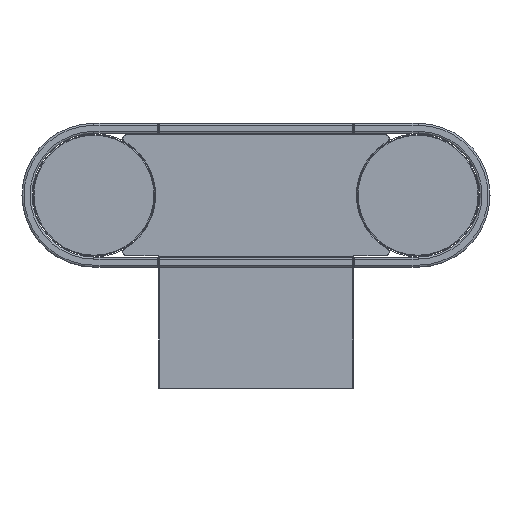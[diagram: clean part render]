
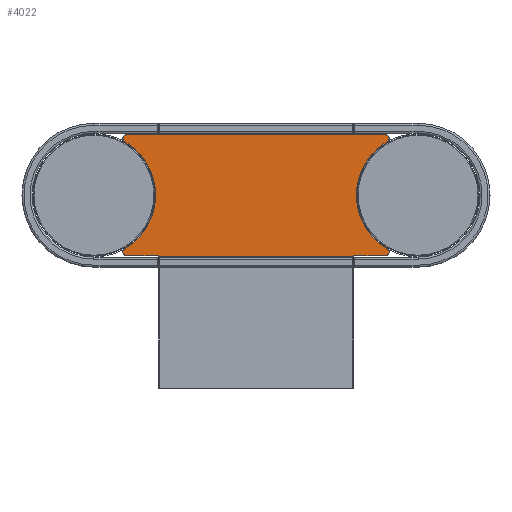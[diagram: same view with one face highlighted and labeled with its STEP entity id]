
A CAD part, left-side view. The second image highlights one B-rep face of the part: STEP entity #4022.
In plain terms, the highlighted planar face has unit normal (-1, 0, 0).
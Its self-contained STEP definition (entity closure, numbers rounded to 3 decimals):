
#5 = VERTEX_POINT ( 'NONE', #5370 ) ;
#294 = AXIS2_PLACEMENT_3D ( 'NONE', #3608, #2843, #5962 ) ;
#334 = EDGE_CURVE ( 'NONE', #5, #7294, #8354, .T. ) ;
#517 = CARTESIAN_POINT ( 'NONE',  ( -58.5, -16.1, -15.15 ) ) ;
#559 = CARTESIAN_POINT ( 'NONE',  ( -58.5, -7.603, -13.22 ) ) ;
#723 = CIRCLE ( 'NONE', #4633, 0.2 ) ;
#976 = VERTEX_POINT ( 'NONE', #5745 ) ;
#1088 = CIRCLE ( 'NONE', #9266, 15.25 ) ;
#1233 = ORIENTED_EDGE ( 'NONE', *, *, #5412, .T. ) ;
#1301 = ORIENTED_EDGE ( 'NONE', *, *, #6736, .T. ) ;
#1316 = CARTESIAN_POINT ( 'NONE',  ( -58.5, -63.9, -15.1 ) ) ;
#1670 = VERTEX_POINT ( 'NONE', #3109 ) ;
#1756 = CARTESIAN_POINT ( 'NONE',  ( -58.5, -63.9, -15.15 ) ) ;
#1856 = VERTEX_POINT ( 'NONE', #559 ) ;
#1920 = CARTESIAN_POINT ( 'NONE',  ( -58.5, -80., 0. ) ) ;
#2012 = FACE_OUTER_BOUND ( 'NONE', #8142, .T. ) ;
#2231 = CARTESIAN_POINT ( 'NONE',  ( -58.5, -80., 14.9 ) ) ;
#2257 = CARTESIAN_POINT ( 'NONE',  ( -58.5, -64.1, -14.9 ) ) ;
#2261 = ORIENTED_EDGE ( 'NONE', *, *, #3427, .T. ) ;
#2337 = LINE ( 'NONE', #10096, #8100 ) ;
#2361 = DIRECTION ( 'NONE',  ( -1., 0., 0. ) ) ;
#2439 = CARTESIAN_POINT ( 'NONE',  ( -58.5, -71.949, 14. ) ) ;
#2632 = CARTESIAN_POINT ( 'NONE',  ( -58.5, -16.1, -15.1 ) ) ;
#2780 = CARTESIAN_POINT ( 'NONE',  ( -58.5, -71.949, -14.9 ) ) ;
#2843 = DIRECTION ( 'NONE',  ( -1., 0., 0. ) ) ;
#2859 = CARTESIAN_POINT ( 'NONE',  ( -58.5, -72.397, 13.22 ) ) ;
#3016 = VERTEX_POINT ( 'NONE', #5365 ) ;
#3078 = CARTESIAN_POINT ( 'NONE',  ( -58.5, -71.949, 14.9 ) ) ;
#3109 = CARTESIAN_POINT ( 'NONE',  ( -58.5, -72.397, -13.22 ) ) ;
#3280 = EDGE_CURVE ( 'NONE', #6020, #9106, #5166, .T. ) ;
#3289 = CARTESIAN_POINT ( 'NONE',  ( -58.5, -71.949, -14. ) ) ;
#3427 = EDGE_CURVE ( 'NONE', #6211, #976, #10038, .T. ) ;
#3564 = ORIENTED_EDGE ( 'NONE', *, *, #334, .T. ) ;
#3586 = DIRECTION ( 'NONE',  ( 0., -1., 0. ) ) ;
#3608 = CARTESIAN_POINT ( 'NONE',  ( -58.5, -80., 0. ) ) ;
#3625 = ORIENTED_EDGE ( 'NONE', *, *, #8935, .T. ) ;
#3657 = DIRECTION ( 'NONE',  ( -1., 0., 0. ) ) ;
#3662 = VERTEX_POINT ( 'NONE', #2859 ) ;
#3671 = EDGE_CURVE ( 'NONE', #1670, #3662, #1088, .T. ) ;
#3818 = CIRCLE ( 'NONE', #4480, 0.9 ) ;
#3888 = CARTESIAN_POINT ( 'NONE',  ( -58.5, -71.949, -14.9 ) ) ;
#3910 = DIRECTION ( 'NONE',  ( -1., 0., 0. ) ) ;
#4022 = ADVANCED_FACE ( 'NONE', ( #2012 ), #8278, .T. ) ;
#4127 = AXIS2_PLACEMENT_3D ( 'NONE', #8662, #7236, #9535 ) ;
#4144 = LINE ( 'NONE', #9584, #8520 ) ;
#4436 = DIRECTION ( 'NONE',  ( -1., 0., 0. ) ) ;
#4480 = AXIS2_PLACEMENT_3D ( 'NONE', #9573, #3910, #10124 ) ;
#4483 = DIRECTION ( 'NONE',  ( 0., 0., 1. ) ) ;
#4535 = DIRECTION ( 'NONE',  ( 0., 0., 1. ) ) ;
#4591 = DIRECTION ( 'NONE',  ( -1., 0., 0. ) ) ;
#4633 = AXIS2_PLACEMENT_3D ( 'NONE', #9823, #3657, #6012 ) ;
#4708 = DIRECTION ( 'NONE',  ( 0., -1., 0. ) ) ;
#4718 = ORIENTED_EDGE ( 'NONE', *, *, #5779, .T. ) ;
#4948 = CIRCLE ( 'NONE', #4127, 15.25 ) ;
#4963 = EDGE_CURVE ( 'NONE', #6065, #8159, #723, .T. ) ;
#4966 = DIRECTION ( 'NONE',  ( 0., -1., 0. ) ) ;
#5166 = LINE ( 'NONE', #6817, #9259 ) ;
#5251 = DIRECTION ( 'NONE',  ( 1., 0., 0. ) ) ;
#5275 = AXIS2_PLACEMENT_3D ( 'NONE', #8638, #4591, #7777 ) ;
#5314 = VERTEX_POINT ( 'NONE', #2780 ) ;
#5365 = CARTESIAN_POINT ( 'NONE',  ( -58.5, -7.603, 13.22 ) ) ;
#5370 = CARTESIAN_POINT ( 'NONE',  ( -58.5, -8.051, -14.9 ) ) ;
#5412 = EDGE_CURVE ( 'NONE', #3662, #6211, #7428, .T. ) ;
#5416 = ORIENTED_EDGE ( 'NONE', *, *, #9738, .T. ) ;
#5559 = DIRECTION ( 'NONE',  ( -1., 0., 0. ) ) ;
#5618 = DIRECTION ( 'NONE',  ( 0., 0., 1. ) ) ;
#5745 = CARTESIAN_POINT ( 'NONE',  ( -58.5, -8.051, 14.9 ) ) ;
#5779 = EDGE_CURVE ( 'NONE', #1856, #5, #3818, .T. ) ;
#5815 = ORIENTED_EDGE ( 'NONE', *, *, #4963, .F. ) ;
#5962 = DIRECTION ( 'NONE',  ( 0., 0., -1. ) ) ;
#6012 = DIRECTION ( 'NONE',  ( 0., 0., 1. ) ) ;
#6020 = VERTEX_POINT ( 'NONE', #2632 ) ;
#6065 = VERTEX_POINT ( 'NONE', #2257 ) ;
#6211 = VERTEX_POINT ( 'NONE', #3078 ) ;
#6240 = DIRECTION ( 'NONE',  ( 0., 0., 1. ) ) ;
#6423 = CIRCLE ( 'NONE', #5275, 0.9 ) ;
#6426 = CIRCLE ( 'NONE', #9196, 0.9 ) ;
#6443 = ORIENTED_EDGE ( 'NONE', *, *, #3280, .T. ) ;
#6532 = VECTOR ( 'NONE', #3586, 1000. ) ;
#6736 = EDGE_CURVE ( 'NONE', #9106, #8670, #4144, .T. ) ;
#6817 = CARTESIAN_POINT ( 'NONE',  ( -58.5, -16.1, -15.25 ) ) ;
#6820 = VECTOR ( 'NONE', #10134, 1000. ) ;
#7236 = DIRECTION ( 'NONE',  ( 1., 0., 0. ) ) ;
#7264 = VECTOR ( 'NONE', #4708, 1000. ) ;
#7294 = VERTEX_POINT ( 'NONE', #8474 ) ;
#7414 = ORIENTED_EDGE ( 'NONE', *, *, #8187, .T. ) ;
#7428 = CIRCLE ( 'NONE', #9377, 0.9 ) ;
#7591 = CARTESIAN_POINT ( 'NONE',  ( -58.5, -16., -14.9 ) ) ;
#7777 = DIRECTION ( 'NONE',  ( 0., 0., 1. ) ) ;
#7795 = LINE ( 'NONE', #3888, #7264 ) ;
#7857 = DIRECTION ( 'NONE',  ( 0., 0., 1. ) ) ;
#7889 = ORIENTED_EDGE ( 'NONE', *, *, #8533, .F. ) ;
#8076 = CIRCLE ( 'NONE', #10033, 0.2 ) ;
#8100 = VECTOR ( 'NONE', #6240, 1000. ) ;
#8142 = EDGE_LOOP ( 'NONE', ( #1301, #9074, #5815, #3625, #5416, #8758, #1233, #2261, #7414, #9623, #4718, #3564, #7889, #6443 ) ) ;
#8159 = VERTEX_POINT ( 'NONE', #1316 ) ;
#8187 = EDGE_CURVE ( 'NONE', #976, #3016, #6423, .T. ) ;
#8278 = PLANE ( 'NONE',  #294 ) ;
#8354 = LINE ( 'NONE', #7591, #6532 ) ;
#8440 = CARTESIAN_POINT ( 'NONE',  ( -58.5, -15.9, -15.1 ) ) ;
#8474 = CARTESIAN_POINT ( 'NONE',  ( -58.5, -15.9, -14.9 ) ) ;
#8520 = VECTOR ( 'NONE', #4966, 1000. ) ;
#8533 = EDGE_CURVE ( 'NONE', #6020, #7294, #8076, .T. ) ;
#8638 = CARTESIAN_POINT ( 'NONE',  ( -58.5, -8.051, 14. ) ) ;
#8662 = CARTESIAN_POINT ( 'NONE',  ( -58.5, 0., 0. ) ) ;
#8670 = VERTEX_POINT ( 'NONE', #1756 ) ;
#8758 = ORIENTED_EDGE ( 'NONE', *, *, #3671, .T. ) ;
#8935 = EDGE_CURVE ( 'NONE', #6065, #5314, #7795, .T. ) ;
#9008 = DIRECTION ( 'NONE',  ( 0., 0., -1. ) ) ;
#9074 = ORIENTED_EDGE ( 'NONE', *, *, #9287, .T. ) ;
#9106 = VERTEX_POINT ( 'NONE', #517 ) ;
#9196 = AXIS2_PLACEMENT_3D ( 'NONE', #3289, #2361, #7857 ) ;
#9259 = VECTOR ( 'NONE', #9008, 1000. ) ;
#9266 = AXIS2_PLACEMENT_3D ( 'NONE', #1920, #5251, #4483 ) ;
#9287 = EDGE_CURVE ( 'NONE', #8670, #8159, #2337, .T. ) ;
#9377 = AXIS2_PLACEMENT_3D ( 'NONE', #2439, #5559, #5618 ) ;
#9535 = DIRECTION ( 'NONE',  ( 0., 0., 1. ) ) ;
#9573 = CARTESIAN_POINT ( 'NONE',  ( -58.5, -8.051, -14. ) ) ;
#9584 = CARTESIAN_POINT ( 'NONE',  ( -58.5, -80., -15.15 ) ) ;
#9623 = ORIENTED_EDGE ( 'NONE', *, *, #10006, .T. ) ;
#9738 = EDGE_CURVE ( 'NONE', #5314, #1670, #6426, .T. ) ;
#9823 = CARTESIAN_POINT ( 'NONE',  ( -58.5, -64.1, -15.1 ) ) ;
#10006 = EDGE_CURVE ( 'NONE', #3016, #1856, #4948, .T. ) ;
#10033 = AXIS2_PLACEMENT_3D ( 'NONE', #8440, #4436, #4535 ) ;
#10038 = LINE ( 'NONE', #2231, #6820 ) ;
#10096 = CARTESIAN_POINT ( 'NONE',  ( -58.5, -63.9, -15. ) ) ;
#10124 = DIRECTION ( 'NONE',  ( 0., 0., 1. ) ) ;
#10134 = DIRECTION ( 'NONE',  ( 0., 1., 0. ) ) ;
